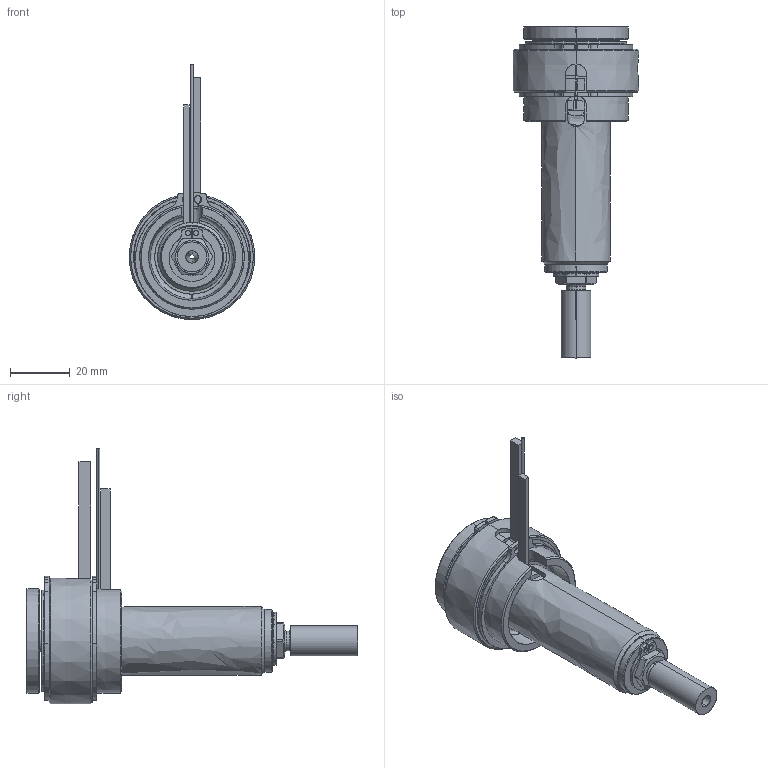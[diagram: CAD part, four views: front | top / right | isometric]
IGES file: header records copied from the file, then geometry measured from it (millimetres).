
Start section: SolidWorks IGES file using analytic representation for surfaces
Global section: file name: C:\Users\luca.EMPAD\Desktop\TEM\UGBE3501-S-A-P-3 [Ød-1.5 P-20 ØC-7.0].IGS; native system: SolidWorks 2012; preprocessor: SolidWorks 2012; author: luca; date: 120330.140344; units: millimetre
Bounding box: 42 x 111 x 85.4 mm (x, y, z)
Surface area: 28567.6 mm2 (no closed solid volume)
Topology: 0 solids, 0 shells, 194 faces, 3606 edges, 3606 vertices
Faces by surface type: revolution 124, bspline 70
